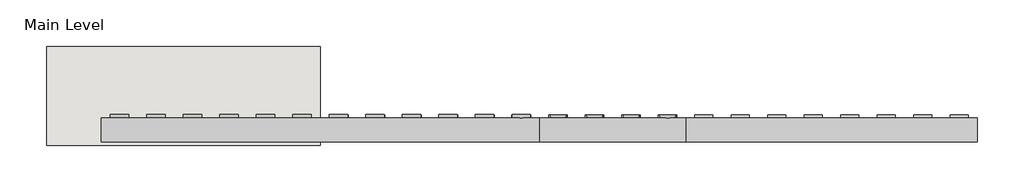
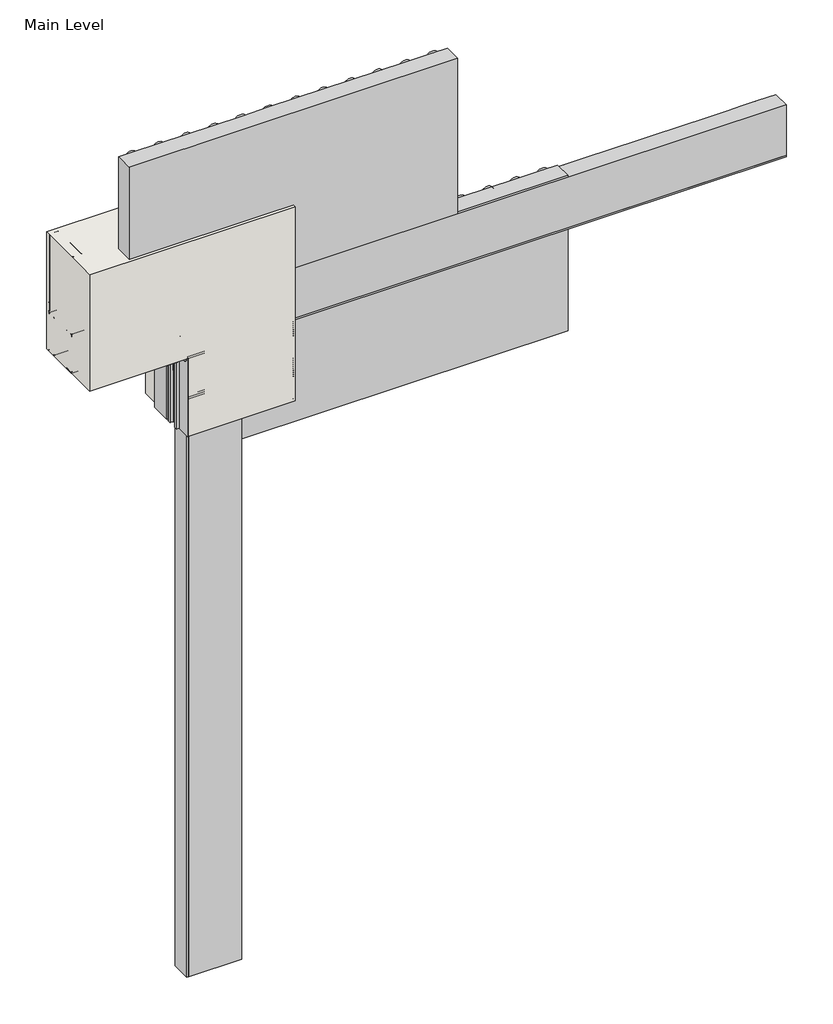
# One storey, incomplete: 26 proxies, 1 wall.
"""IFC4 building model written with IfcOpenShell, lengths in millimetres."""

from ifc_helpers import new_model, si_unit, frame, origin, place, context, project, spatial, polyline, outline, extrude, transform, mapped, element, save
from components import generic_models_31547c53, generic_models_0b6704b8, generic_models_233bf4a6, generic_models_0795693d, generic_models_cb092f88, generic_models_04f31e3c, generic_models_08e6521c, generic_models_d28646c3, proxy_4c3b85e5, proxy_50213ae0, proxy_cc65e3d2, finish_coat_filler_finish_coat_filler_f99f7fa1, masonry_sill_masonry_sill_85e186c2, masonry_sill1_masonry_sill_665cf46e, masonry_sill2_masonry_sill_baa15611, proxy_a3fd9b0b, proxy_3a0ad636, proxy_0073da47, sealant_sealant_3a8dd322, window_header_window_header_abd4ef46, wood_blocking_5320d369

model = new_model("IFC4")

# Units and contexts
model_context = context("Model", 3, world=origin())
ifc_project = project(units=[si_unit("LENGTHUNIT", "METRE", prefix="MILLI")], contexts=[model_context])

# Site, building, storey
site = spatial("IfcSite", under=ifc_project)
building = spatial("IfcBuilding", under=site)
storey = spatial("IfcBuildingStorey", under=building, Name="Main Level", Elevation=0.0)

# Proxies
placement = place(None, origin())
generic_models_shape = generic_models_31547c53(model_context)
element("IfcBuildingElementProxy", 1, Name="Durabond Generic Model Sealant Vent : Durabond Generic Model Sealant Vent", ObjectType="Durabond Generic Model Sealant Vent : Durabond Generic Model Sealant Vent", at=placement, inside=storey, context=model_context, shape_type="MappedRepresentation", body=[
    mapped(generic_models_shape, transform((26800.7195523, 547.6393211, 304.2607023), x_axis=(1.0, 0.0, 0.0), y_axis=(0.0, 0.08715574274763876, -0.9961946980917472), z_axis=(0.0, 0.9961946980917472, 0.08715574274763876))),
])
generic_models_2_shape = generic_models_0b6704b8(model_context)
element("IfcBuildingElementProxy", 2, Name="Durabond Generic Model Insulation Adhesive Flat : Durabond Generic Model Insulation Adhesive Flat", ObjectType="Durabond Generic Model Insulation Adhesive Flat : Durabond Generic Model Insulation Adhesive Flat", at=placement, inside=storey, context=model_context, shape_type="MappedRepresentation", body=[
    mapped(generic_models_2_shape, transform((26692.3726773, 627.6316297, 381.0), x_axis=(1.0, 0.0, 0.0), y_axis=(0.0, 1.0, 0.0), z_axis=(0.0, 0.0, 1.0))),
])
element("IfcBuildingElementProxy", 3, Name="Durabond Generic Model Insulation Adhesive Flat : Durabond Generic Model Insulation Adhesive Flat", ObjectType="Durabond Generic Model Insulation Adhesive Flat : Durabond Generic Model Insulation Adhesive Flat", at=placement, inside=storey, context=model_context, shape_type="MappedRepresentation", body=[
    mapped(generic_models_2_shape, transform((26793.9726773, 627.6316297, 381.0), x_axis=(1.0, 0.0, 0.0), y_axis=(0.0, 1.0, 0.0), z_axis=(0.0, 0.0, 1.0))),
])
generic_models_3_shape = generic_models_233bf4a6(model_context)
element("IfcBuildingElementProxy", 4, Name="Durabond Generic Model Insulation Adhesive Flat : Durabond Generic Model Insulation Adhesive Flat", ObjectType="Durabond Generic Model Insulation Adhesive Flat : Durabond Generic Model Insulation Adhesive Flat", at=placement, inside=storey, context=model_context, shape_type="MappedRepresentation", body=[
    mapped(generic_models_3_shape, transform((26895.5726773, 627.6316297, 0.0), x_axis=(1.0, 0.0, 0.0), y_axis=(0.0, 1.0, 0.0), z_axis=(0.0, 0.0, 1.0))),
])
element("IfcBuildingElementProxy", 5, Name="Durabond Generic Model Insulation Adhesive Flat : Durabond Generic Model Insulation Adhesive Flat", ObjectType="Durabond Generic Model Insulation Adhesive Flat : Durabond Generic Model Insulation Adhesive Flat", at=placement, inside=storey, context=model_context, shape_type="MappedRepresentation", body=[
    mapped(generic_models_3_shape, transform((26997.1726773, 627.6316297, 0.0), x_axis=(1.0, 0.0, 0.0), y_axis=(0.0, 1.0, 0.0), z_axis=(0.0, 0.0, 1.0))),
])
element("IfcBuildingElementProxy", 6, Name="Durabond Generic Model Insulation Adhesive Flat : Durabond Generic Model Insulation Adhesive Flat", ObjectType="Durabond Generic Model Insulation Adhesive Flat : Durabond Generic Model Insulation Adhesive Flat", at=placement, inside=storey, context=model_context, shape_type="MappedRepresentation", body=[
    mapped(generic_models_3_shape, transform((27098.7726773, 627.6316297, 0.0), x_axis=(1.0, 0.0, 0.0), y_axis=(0.0, 1.0, 0.0), z_axis=(0.0, 0.0, 1.0))),
])
element("IfcBuildingElementProxy", 7, Name="Durabond Generic Model Insulation Adhesive Flat : Durabond Generic Model Insulation Adhesive Flat", ObjectType="Durabond Generic Model Insulation Adhesive Flat : Durabond Generic Model Insulation Adhesive Flat", at=placement, inside=storey, context=model_context, shape_type="MappedRepresentation", body=[
    mapped(generic_models_3_shape, transform((27200.3726773, 627.6316297, 0.0), x_axis=(1.0, 0.0, 0.0), y_axis=(0.0, 1.0, 0.0), z_axis=(0.0, 0.0, 1.0))),
])
generic_models_4_shape = generic_models_0795693d(model_context)
generic_models_5_shape = generic_models_cb092f88(model_context)
generic_models_6_shape = generic_models_04f31e3c(model_context)
generic_models_7_shape = generic_models_08e6521c(model_context)
element("IfcBuildingElementProxy", 8, Name="CRAi Generic Model Mesh Piece Face Based : CRAi Generic Model Mesh Piece Face Based", ObjectType="CRAi Generic Model Mesh Piece Face Based : CRAi Generic Model Mesh Piece Face Based", at=placement, inside=storey, context=model_context, shape_type="MappedRepresentation", body=[
    mapped(generic_models_4_shape, transform((27054.3226773, 541.9066297, 155.3366797), x_axis=(-1.0, 0.0, 0.0), y_axis=(0.0, 0.0, -1.0), z_axis=(0.0, -1.0, 0.0))),
    mapped(generic_models_5_shape, transform((27054.3226773, 541.9066297, 155.3366797), x_axis=(-1.0, 0.0, 0.0), y_axis=(0.0, 0.0, -1.0), z_axis=(0.0, -1.0, 0.0))),
    mapped(generic_models_6_shape, transform((27054.3226773, 541.9066297, 155.3366797), x_axis=(-1.0, 0.0, 0.0), y_axis=(0.0, 0.0, -1.0), z_axis=(0.0, -1.0, 0.0))),
    mapped(generic_models_7_shape, transform((27054.3226773, 541.9066297, 155.3366797), x_axis=(-1.0, 0.0, 0.0), y_axis=(0.0, 0.0, -1.0), z_axis=(0.0, -1.0, 0.0))),
])
generic_models_8_shape = generic_models_d28646c3(model_context)
element("IfcBuildingElementProxy", 9, Name="CRAi Generic Model Line Based Drip Deflector : CRAi Generic Model Line Based Drip Deflector", ObjectType="CRAi Generic Model Line Based Drip Deflector : CRAi Generic Model Line Based Drip Deflector", at=placement, inside=storey, context=model_context, shape_type="MappedRepresentation", body=[
    mapped(generic_models_8_shape, transform((26855.8851773, 541.5329375, 295.758643), x_axis=(0.0, 0.996194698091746, 0.08715574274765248), y_axis=(-1.0, 0.0, 0.0), z_axis=(0.0, -0.08715574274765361, 0.996194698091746))),
])
proxy_shape = proxy_4c3b85e5(model_context)
element("IfcBuildingElementProxy", 10, Name="Durabond Generic Model Quantum Select 5-0 Boundary Board : 3\"", ObjectType="Durabond Generic Model Quantum Select 5-0 Boundary Board : 3\"", at=placement, inside=storey, context=model_context, shape_type="MappedRepresentation", body=[
    mapped(proxy_shape, transform((26957.4851773, 624.4566297, -908.175778), x_axis=(0.0, 0.0, -1.0), y_axis=(1.0, 0.0, 0.0), z_axis=(0.0, -1.0, 0.0))),
])
proxy_2_shape = proxy_50213ae0(model_context)
element("IfcBuildingElementProxy", 11, Name="Durabond Generic Model Quantum Select 5-0 Insulation Board : 3\"", ObjectType="Durabond Generic Model Quantum Select 5-0 Insulation Board : 3\"", at=placement, inside=storey, context=model_context, shape_type="MappedRepresentation", body=[
    mapped(proxy_2_shape, transform((27251.1726773, 624.4566297, 819.024222), x_axis=(1.0, 0.0, 0.0), y_axis=(0.0, 0.0, 1.0), z_axis=(0.0, -1.0, 0.0))),
])
element("IfcBuildingElementProxy", 12, Name="Durabond Generic Model Quantum Select 5-0 Insulation Board : 3\"", ObjectType="Durabond Generic Model Quantum Select 5-0 Insulation Board : 3\"", at=placement, inside=storey, context=model_context, shape_type="MappedRepresentation", body=[
    mapped(proxy_2_shape, transform((27659.1601773, 624.4566297, 217.361722), x_axis=(1.0, 0.0, 0.0), y_axis=(0.0, 0.0, 1.0), z_axis=(0.0, -1.0, 0.0))),
])
proxy_3_shape = proxy_cc65e3d2(model_context)
element("IfcBuildingElementProxy", 13, Name="Durabond Generic Model Quantum Select 5-0 Vent Board : 3\"", ObjectType="Durabond Generic Model Quantum Select 5-0 Vent Board : 3\"", at=placement, inside=storey, context=model_context, shape_type="MappedRepresentation", body=[
    mapped(proxy_3_shape, transform((27860.7726773, 624.4566297, 412.624222), x_axis=(1.0, 0.0, 0.0), y_axis=(0.0, 0.0, 1.0), z_axis=(0.0, -1.0, 0.0))),
])
finish_coat_filler_finish_coat_filler_shape = finish_coat_filler_finish_coat_filler_f99f7fa1(model_context)
element("IfcBuildingElementProxy", 14, Name="Finish Coat Filler : Finish Coat Filler", ObjectType="Finish Coat Filler : Finish Coat Filler", at=placement, inside=storey, context=model_context, shape_type="MappedRepresentation", body=[
    mapped(finish_coat_filler_finish_coat_filler_shape, transform((0.0, 0.0, 0.0), x_axis=(1.0, 0.0, 0.0), y_axis=(0.0, 1.0, 0.0), z_axis=(0.0, 0.0, 1.0))),
])
masonry_sill_masonry_sill_shape = masonry_sill_masonry_sill_85e186c2(model_context)
element("IfcBuildingElementProxy", 15, Name="Masonry Sill : Masonry Sill", ObjectType="Masonry Sill : Masonry Sill", at=placement, inside=storey, context=model_context, shape_type="MappedRepresentation", body=[
    mapped(masonry_sill_masonry_sill_shape, transform((0.0, 0.0, 0.0), x_axis=(1.0, 0.0, 0.0), y_axis=(0.0, 1.0, 0.0), z_axis=(0.0, 0.0, 1.0))),
])
masonry_sill1_masonry_sill_shape = masonry_sill1_masonry_sill_665cf46e(model_context)
element("IfcBuildingElementProxy", 16, Name="Masonry Sill1 : Masonry Sill", ObjectType="Masonry Sill1 : Masonry Sill", at=placement, inside=storey, context=model_context, shape_type="MappedRepresentation", body=[
    mapped(masonry_sill1_masonry_sill_shape, transform((0.0, 0.0, 0.0), x_axis=(1.0, 0.0, 0.0), y_axis=(0.0, 1.0, 0.0), z_axis=(0.0, 0.0, 1.0))),
])
masonry_sill2_masonry_sill_shape = masonry_sill2_masonry_sill_baa15611(model_context)
element("IfcBuildingElementProxy", 17, Name="Masonry Sill2 : Masonry Sill", ObjectType="Masonry Sill2 : Masonry Sill", at=placement, inside=storey, context=model_context, shape_type="MappedRepresentation", body=[
    mapped(masonry_sill2_masonry_sill_shape, transform((0.0, 0.0, 0.0), x_axis=(1.0, 0.0, 0.0), y_axis=(0.0, 1.0, 0.0), z_axis=(0.0, 0.0, 1.0))),
])
proxy_4_shape = proxy_a3fd9b0b(model_context)
element("IfcBuildingElementProxy", 18, Name="CRAi Generic Model Metal Stud : Metal Framing Stud - 1\" x 3.5\"", ObjectType="CRAi Generic Model Metal Stud : Metal Framing Stud - 1\" x 3.5\"", at=placement, inside=storey, context=model_context, shape_type="MappedRepresentation", body=[
    mapped(proxy_4_shape, transform((26876.5226773, 726.0566297, 0.0), x_axis=(1.0, 0.0, 0.0), y_axis=(0.0, 1.0, 0.0), z_axis=(0.0, 0.0, 1.0))),
])
proxy_5_shape = proxy_3a0ad636(model_context)
element("IfcBuildingElementProxy", 19, Name="CRAi Generic Model Metal Stud : Metal Framing Stud - 1\" x 3.5\"", ObjectType="CRAi Generic Model Metal Stud : Metal Framing Stud - 1\" x 3.5\"", at=placement, inside=storey, context=model_context, shape_type="MappedRepresentation", body=[
    mapped(proxy_5_shape, transform((26508.2226773, 726.0566297, 0.0), x_axis=(-1.0, 0.0, 0.0), y_axis=(0.0, -1.0, 0.0), z_axis=(0.0, 0.0, 1.0))),
])
element("IfcBuildingElementProxy", 20, Name="CRAi Generic Model Metal Stud : Metal Framing Stud - 1\" x 3.5\"", ObjectType="CRAi Generic Model Metal Stud : Metal Framing Stud - 1\" x 3.5\"", at=placement, inside=storey, context=model_context, shape_type="MappedRepresentation", body=[
    mapped(proxy_5_shape, transform((26876.5226773, 726.0566297, 0.0), x_axis=(-1.0, 0.0, 0.0), y_axis=(0.0, -1.0, 0.0), z_axis=(0.0, 0.0, 1.0))),
])
proxy_6_shape = proxy_0073da47(model_context)
element("IfcBuildingElementProxy", 21, Name="CRAi Generic Model Metal Stud : Metal Framing Stud - 1\" x 3.5\"", ObjectType="CRAi Generic Model Metal Stud : Metal Framing Stud - 1\" x 3.5\"", at=placement, inside=storey, context=model_context, shape_type="MappedRepresentation", body=[
    mapped(proxy_6_shape, transform((26914.6226773, 726.0566297, 0.0), x_axis=(1.0, 0.0, 0.0), y_axis=(0.0, 1.0, 0.0), z_axis=(0.0, 0.0, 1.0))),
])
sealant_sealant_shape = sealant_sealant_3a8dd322(model_context)
element("IfcBuildingElementProxy", 22, Name="Sealant : Sealant", ObjectType="Sealant : Sealant", at=placement, inside=storey, context=model_context, shape_type="MappedRepresentation", body=[
    mapped(sealant_sealant_shape, transform((0.0, 0.0, 0.0), x_axis=(1.0, 0.0, 0.0), y_axis=(0.0, 1.0, 0.0), z_axis=(0.0, 0.0, 1.0))),
])
window_header_window_header_shape = window_header_window_header_abd4ef46(model_context)
element("IfcBuildingElementProxy", 23, Name="Window Header : Window Header", ObjectType="Window Header : Window Header", at=placement, inside=storey, context=model_context, shape_type="MappedRepresentation", body=[
    mapped(window_header_window_header_shape, transform((0.0, 0.0, 0.0), x_axis=(1.0, 0.0, 0.0), y_axis=(0.0, 1.0, 0.0), z_axis=(0.0, 0.0, 1.0))),
])
wood_blocking_shape = wood_blocking_5320d369(model_context)
element("IfcBuildingElementProxy", 24, Name="CRAi Generic Model Line Based Metal Framing Track : Wood Blocking", ObjectType="CRAi Generic Model Line Based Metal Framing Track : Wood Blocking", at=placement, inside=storey, context=model_context, shape_type="MappedRepresentation", body=[
    mapped(wood_blocking_shape, transform((26489.1726773, 649.8566297, 304.8), x_axis=(1.0, 0.0, 0.0), y_axis=(0.0, 1.0, 0.0), z_axis=(0.0, 0.0, 1.0))),
])
element("IfcBuildingElementProxy", 25, Name="CRAi Generic Model Line Based Metal Framing Track : Wood Blocking", ObjectType="CRAi Generic Model Line Based Metal Framing Track : Wood Blocking", at=placement, inside=storey, context=model_context, shape_type="MappedRepresentation", body=[
    mapped(wood_blocking_shape, transform((26489.1726773, 802.257101, 457.2), x_axis=(1.0, 0.0, 0.0), y_axis=(0.0, -1.0, 0.0), z_axis=(0.0, 0.0, -1.0))),
])
element("IfcBuildingElementProxy", 26, Name="CRAi Generic Model Line Based Metal Framing Track : Wood Blocking", ObjectType="CRAi Generic Model Line Based Metal Framing Track : Wood Blocking", at=placement, inside=storey, context=model_context, shape_type="MappedRepresentation", body=[
    mapped(wood_blocking_shape, transform((26489.1726773, 649.8566297, 457.2), x_axis=(1.0, 0.0, 0.0), y_axis=(0.0, 1.0, 0.0), z_axis=(0.0, 0.0, 1.0))),
])

# Wall
element("IfcWall", 27, ObjectType="189mm (7.5”) EIFS Field Applied on Mtl. Stud Layer - 50mm Grooved Insulation Board Metal Stud Wall", at=placement, inside=storey, context=model_context, shape_type="SweptSolid", body=[
    extrude(outline(polyline([(0.0, 27251.1726773), (762.0, 27251.1726773), (762.0, 26489.1726773), (304.8, 26489.1726773), (304.8, 26857.4726773), (0.0, 26857.4726773), (0.0, 27251.1726773)])), frame((0.0, 538.7316297, 0.0), z_axis=(0.0, 1.0, 0.0), x_axis=(0.0, 0.0, 1.0)), (0.0, 0.0, 1.0), 276.225),
])

save(model, "model.ifc")
